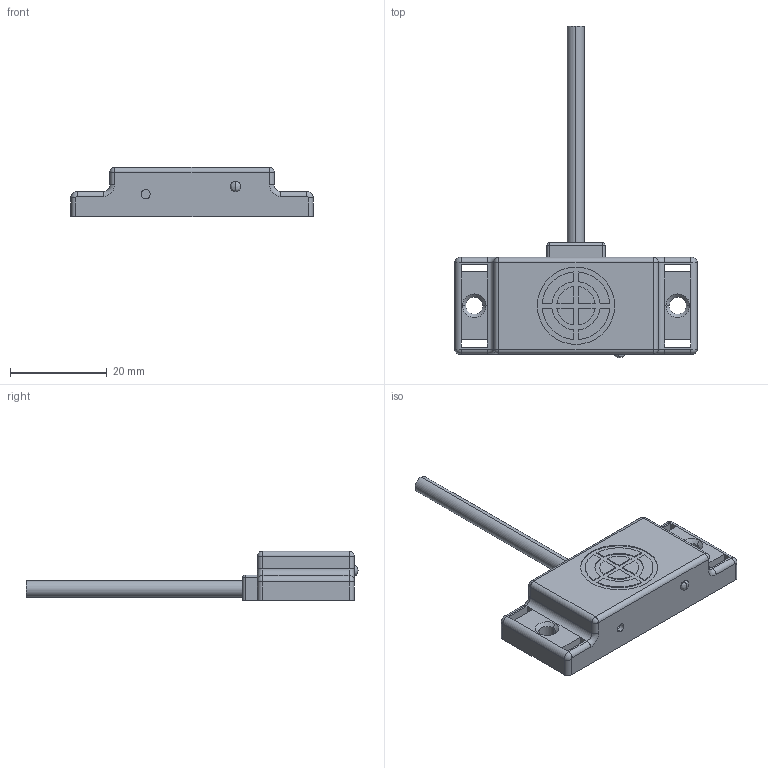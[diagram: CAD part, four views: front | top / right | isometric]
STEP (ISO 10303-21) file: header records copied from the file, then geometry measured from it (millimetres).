
FILE_DESCRIPTION (( 'STEP AP203' ), '1' );
FILE_NAME ('CS10P-B.STEP', '2025-09-04T08:25:05', ( '' ), ( '' ), 'SwSTEP 2.0', 'SolidWorks 2023', '' );
FILE_SCHEMA (( 'CONFIG_CONTROL_DESIGN' ));
Length unit declared in the file: millimetre
Products named in the file (7): SD2008779-CS10导线密封卡扣; SD2008778-基板支架; 导光柱; SD2008777-CS10方壳-A1; CS10P-B; 灌胶层; 3.5导线
Assembly tree (6 placements, depth 2):
  CS10P-B
    SD2008777-CS10方壳-A1
    导光柱
    SD2008778-基板支架
    SD2008779-CS10导线密封卡扣
    灌胶层
    3.5导线
Bounding box: 50.1 x 68.66 x 10.2 mm (x, y, z)
Volume: 4750.5 mm3; surface area: 8133.6 mm2
Topology: 6 solids, 6 shells, 547 faces, 1388 edges, 869 vertices
Faces by surface type: plane 356, cylinder 111, cone 60, torus 12, sphere 6, bspline 2
Entity records: 17573 total; most frequent: CARTESIAN_POINT 3515, DIRECTION 2794, ORIENTED_EDGE 2764, EDGE_CURVE 1382, VECTOR 950, LINE 950, AXIS2_PLACEMENT_3D 922, VERTEX_POINT 869
